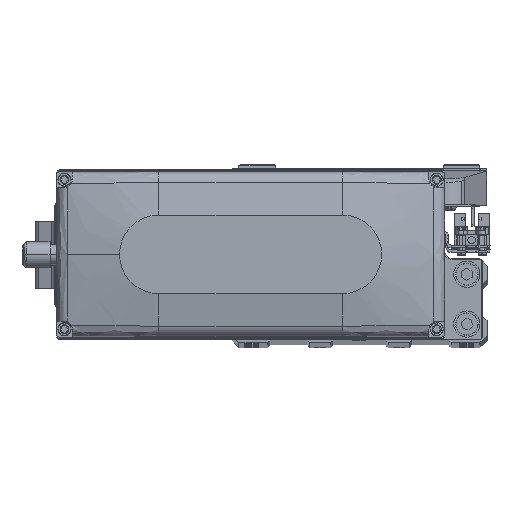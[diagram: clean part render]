
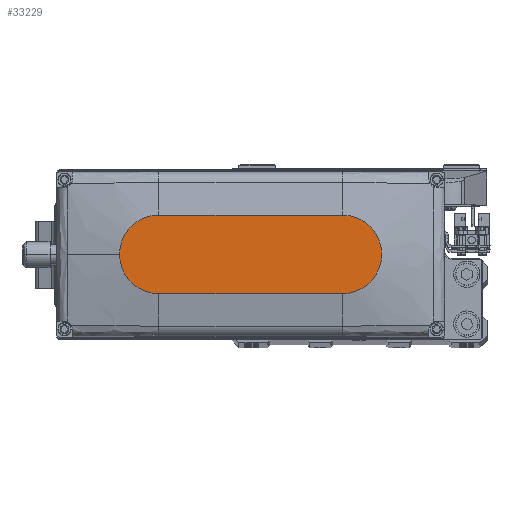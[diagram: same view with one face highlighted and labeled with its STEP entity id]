
A CAD part, top view. The second image highlights one B-rep face of the part: STEP entity #33229.
In plain terms, the highlighted planar face has unit normal (0, 0, 1).
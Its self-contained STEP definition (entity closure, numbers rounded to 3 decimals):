
#1222 = DIRECTION ( 'NONE',  ( -1., 0., 0. ) ) ;
#4648 = AXIS2_PLACEMENT_3D ( 'NONE', #33366, #48388, #14586 ) ;
#6053 = ORIENTED_EDGE ( 'NONE', *, *, #23606, .T. ) ;
#6947 = VERTEX_POINT ( 'NONE', #9554 ) ;
#8902 = DIRECTION ( 'NONE',  ( 0., 0., 1. ) ) ;
#9075 = VERTEX_POINT ( 'NONE', #39071 ) ;
#9554 = CARTESIAN_POINT ( 'NONE',  ( 35., -15., 35. ) ) ;
#9565 = ORIENTED_EDGE ( 'NONE', *, *, #29957, .T. ) ;
#12178 = EDGE_LOOP ( 'NONE', ( #41920, #20576, #48612, #9565, #6053 ) ) ;
#12211 = LINE ( 'NONE', #27282, #38678 ) ;
#12215 = DIRECTION ( 'NONE',  ( 1., 0., 0. ) ) ;
#12605 = FACE_OUTER_BOUND ( 'NONE', #12178, .T. ) ;
#13477 = CIRCLE ( 'NONE', #41073, 15. ) ;
#14586 = DIRECTION ( 'NONE',  ( 1., 0., 0. ) ) ;
#15614 = CARTESIAN_POINT ( 'NONE',  ( 35., 0., 35. ) ) ;
#17350 = CARTESIAN_POINT ( 'NONE',  ( 35., 15., 35. ) ) ;
#19992 = LINE ( 'NONE', #35051, #45543 ) ;
#20576 = ORIENTED_EDGE ( 'NONE', *, *, #31844, .T. ) ;
#21189 = VERTEX_POINT ( 'NONE', #30658 ) ;
#21848 = AXIS2_PLACEMENT_3D ( 'NONE', #31002, #46017, #12215 ) ;
#23606 = EDGE_CURVE ( 'NONE', #21189, #37127, #13477, .T. ) ;
#23974 = DIRECTION ( 'NONE',  ( 1., 0., 0. ) ) ;
#25947 = CIRCLE ( 'NONE', #4648, 15. ) ;
#26913 = VERTEX_POINT ( 'NONE', #37912 ) ;
#27282 = CARTESIAN_POINT ( 'NONE',  ( -35., -15., 35. ) ) ;
#27681 = PLANE ( 'NONE',  #46113 ) ;
#29957 = EDGE_CURVE ( 'NONE', #6947, #21189, #36787, .T. ) ;
#30658 = CARTESIAN_POINT ( 'NONE',  ( 50., 0., 35. ) ) ;
#30687 = DIRECTION ( 'NONE',  ( 0., 0., 1. ) ) ;
#30822 = EDGE_CURVE ( 'NONE', #37127, #9075, #19992, .T. ) ;
#31002 = CARTESIAN_POINT ( 'NONE',  ( 35., 0., 35. ) ) ;
#31844 = EDGE_CURVE ( 'NONE', #9075, #26913, #25947, .T. ) ;
#33229 = ADVANCED_FACE ( 'NONE', ( #12605 ), #27681, .T. ) ;
#33366 = CARTESIAN_POINT ( 'NONE',  ( -35., 0., 35. ) ) ;
#35051 = CARTESIAN_POINT ( 'NONE',  ( -35., 15., 35. ) ) ;
#36787 = CIRCLE ( 'NONE', #21848, 15. ) ;
#37127 = VERTEX_POINT ( 'NONE', #17350 ) ;
#37912 = CARTESIAN_POINT ( 'NONE',  ( -35., -15., 35. ) ) ;
#38678 = VECTOR ( 'NONE', #42300, 1000. ) ;
#39071 = CARTESIAN_POINT ( 'NONE',  ( -35., 15., 35. ) ) ;
#41073 = AXIS2_PLACEMENT_3D ( 'NONE', #15614, #30687, #45707 ) ;
#41920 = ORIENTED_EDGE ( 'NONE', *, *, #30822, .T. ) ;
#42300 = DIRECTION ( 'NONE',  ( 1., 0., 0. ) ) ;
#42699 = CARTESIAN_POINT ( 'NONE',  ( 0., 0., 35. ) ) ;
#45543 = VECTOR ( 'NONE', #1222, 1000. ) ;
#45663 = EDGE_CURVE ( 'NONE', #26913, #6947, #12211, .T. ) ;
#45707 = DIRECTION ( 'NONE',  ( 1., 0., 0. ) ) ;
#46017 = DIRECTION ( 'NONE',  ( 0., 0., 1. ) ) ;
#46113 = AXIS2_PLACEMENT_3D ( 'NONE', #42699, #8902, #23974 ) ;
#48388 = DIRECTION ( 'NONE',  ( 0., 0., 1. ) ) ;
#48612 = ORIENTED_EDGE ( 'NONE', *, *, #45663, .T. ) ;
